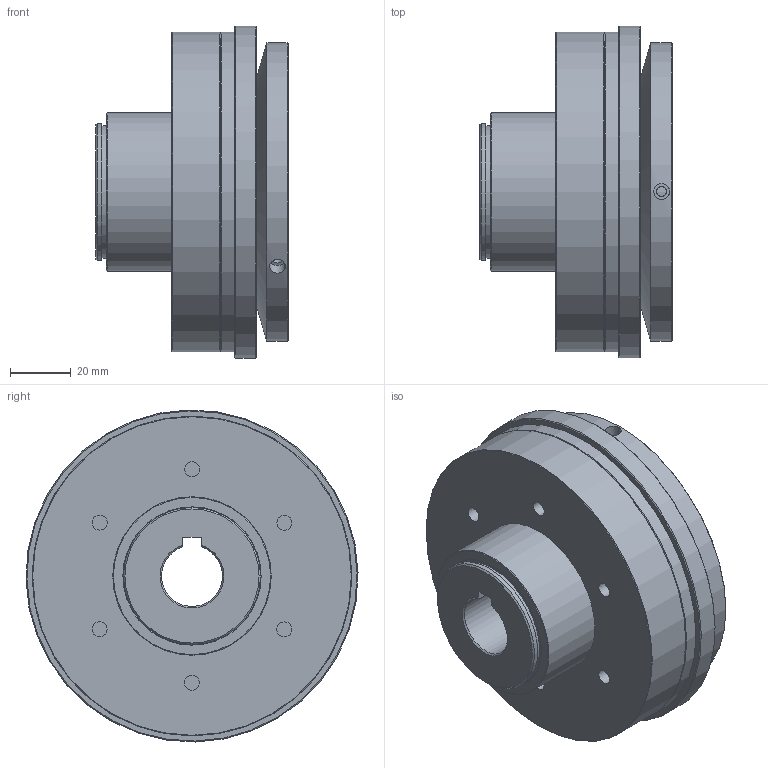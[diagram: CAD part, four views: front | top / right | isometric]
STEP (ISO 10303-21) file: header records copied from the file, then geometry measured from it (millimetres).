
FILE_DESCRIPTION( ( 'Unknown' ), '1' );
FILE_NAME( 'C:/Users/TWalzel/Documents/CAD-Daten/KBK-CP/200/KBK C-P-200.stp', 'Unknown', ( 'Unknown' ), ( 'Unknown' ), 'PSStep 16.0.42', 'Unknown', ' ' );
FILE_SCHEMA( ( 'AUTOMOTIVE_DESIGN { 1 0 10303 214 1 1 1 1 }' ) );
Length unit declared in the file: millimetre
Products named in the file (7): Druckring 200; Stellring 200; Assem1; Flansch-Gleitlager  CK-200; Grundkörper C-P-200_1
Assembly tree (6 placements, depth 3):
  Assem1
    Flansch-Gleitlager  CK-200
    Grundkörper C-P-200_1
    Stellring 200
      Stellring 200
    Druckring 200
      Druckring 200
Bounding box: 63.15 x 108.98 x 108.98 mm (x, y, z)
Volume: 331696.4 mm3; surface area: 88109.7 mm2
Topology: 4 solids, 4 shells, 92 faces, 185 edges, 118 vertices
Faces by surface type: cylinder 36, plane 33, cone 21, torus 2
Full cylindrical faces by diameter (mm): 3.242 x3, 4.917 x12, 5.2 x6, 43.5 x1, 45 x3, 52 x1, 62 x1, 66 x2, 77 x1, 90 x1, 98 x1, 105 x2, 109 x1
Entity records: 3169 total; most frequent: CARTESIAN_POINT 650, DIRECTION 387, ORIENTED_EDGE 216, AXIS2_PLACEMENT_3D 186, EDGE_LOOP 181, FACE_OUTER_BOUND 129, EDGE_CURVE 108, VERTEX_POINT 99
